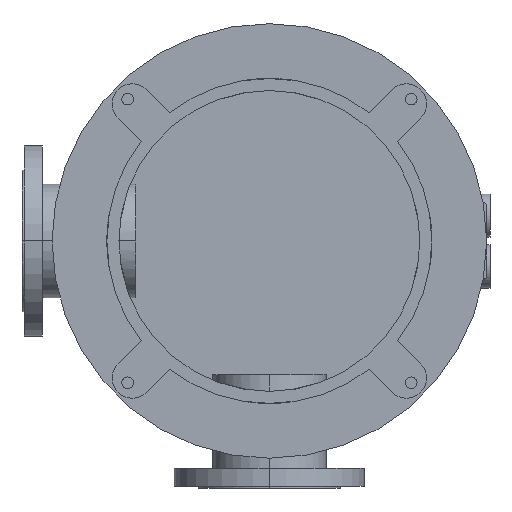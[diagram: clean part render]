
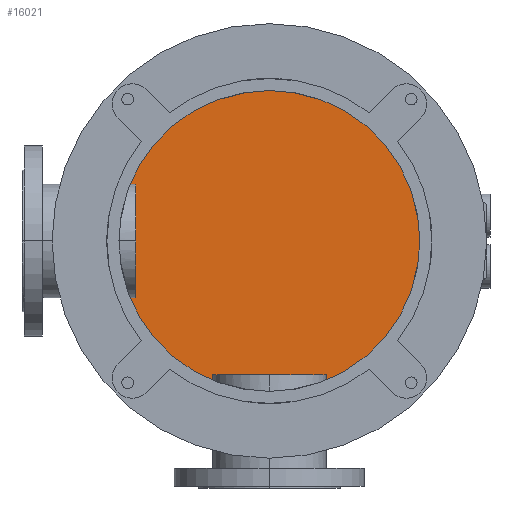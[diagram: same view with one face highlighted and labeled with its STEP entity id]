
A CAD part, front view. The second image highlights one B-rep face of the part: STEP entity #16021.
In plain terms, the highlighted planar face has unit normal (0, -1, 0).
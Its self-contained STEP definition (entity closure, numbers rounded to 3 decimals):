
#3097=CARTESIAN_POINT('',(0.,668.,0.));
#3098=DIRECTION('',(0.,-1.,0.));
#3099=DIRECTION('',(0.,0.,1.));
#3100=AXIS2_PLACEMENT_3D('',#3097,#3098,#3099);
#3288=CARTESIAN_POINT('',(0.,668.,0.));
#3289=DIRECTION('',(0.,-1.,0.));
#3290=DIRECTION('',(0.,0.,-1.));
#3291=AXIS2_PLACEMENT_3D('',#3288,#3289,#3290);
#8612=CARTESIAN_POINT('',(0.,668.,240.));
#8613=CARTESIAN_POINT('',(0.,668.,-240.));
#8614=VERTEX_POINT('',#8612);
#8615=VERTEX_POINT('',#8613);
#16012=CARTESIAN_POINT('',(0.,668.,0.));
#16013=DIRECTION('',(0.,1.,0.));
#16014=DIRECTION('',(0.,0.,-1.));
#16015=AXIS2_PLACEMENT_3D('',#16012,#16013,#16014);
#16016=PLANE('',#16015);
#16017=ORIENTED_EDGE('',*,*,#14117,.F.);
#16018=ORIENTED_EDGE('',*,*,#14243,.F.);
#16019=EDGE_LOOP('',(#16017,#16018));
#16020=FACE_OUTER_BOUND('',#16019,.F.);
#16021=ADVANCED_FACE('',(#16020),#16016,.F.);
#3101=CIRCLE('',#3100,240.);
#3292=CIRCLE('',#3291,240.);
#14117=EDGE_CURVE('',#8614,#8615,#3101,.T.);
#14243=EDGE_CURVE('',#8615,#8614,#3292,.T.);
